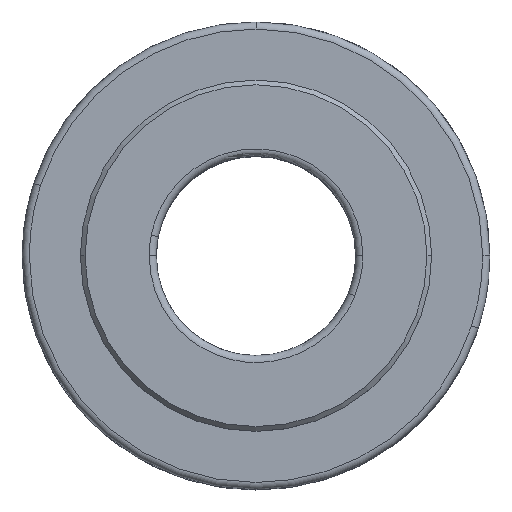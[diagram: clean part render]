
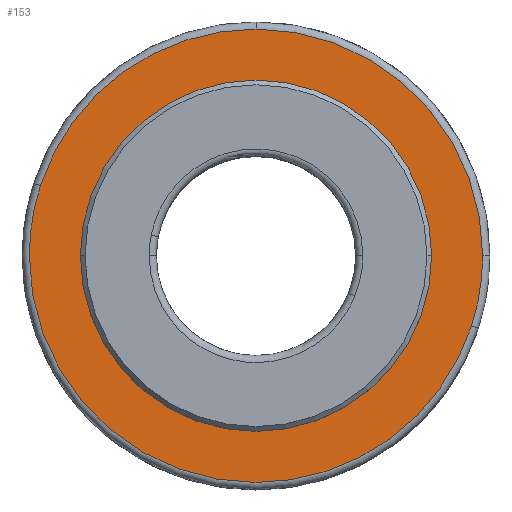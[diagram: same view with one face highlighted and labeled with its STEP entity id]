
A CAD part, top view. The second image highlights one B-rep face of the part: STEP entity #153.
In plain terms, the highlighted planar face has unit normal (0, 0, 1).
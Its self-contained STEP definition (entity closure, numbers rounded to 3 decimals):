
#48=AXIS2_PLACEMENT_3D('Circle Axis2P3D',#46,#47,$) ;
#79=AXIS2_PLACEMENT_3D('Circle Axis2P3D',#77,#78,$) ;
#97=AXIS2_PLACEMENT_3D('Plane Axis2P3D',#94,#95,#96) ;
#101=AXIS2_PLACEMENT_3D('Circle Axis2P3D',#99,#100,$) ;
#110=AXIS2_PLACEMENT_3D('Circle Axis2P3D',#108,#109,$) ;
#117=AXIS2_PLACEMENT_3D('Circle Axis2P3D',#115,#116,$) ;
#124=AXIS2_PLACEMENT_3D('Circle Axis2P3D',#122,#123,$) ;
#131=AXIS2_PLACEMENT_3D('Circle Axis2P3D',#129,#130,$) ;
#138=AXIS2_PLACEMENT_3D('Circle Axis2P3D',#136,#137,$) ;
#43=CARTESIAN_POINT('Vertex',(-7.4,0.,4.85)) ;
#46=CARTESIAN_POINT('Axis2P3D Location',(0.,0.,4.85)) ;
#50=CARTESIAN_POINT('Vertex',(7.4,0.,4.85)) ;
#77=CARTESIAN_POINT('Axis2P3D Location',(0.,0.,4.85)) ;
#94=CARTESIAN_POINT('Axis2P3D Location',(0.,0.,4.85)) ;
#99=CARTESIAN_POINT('Axis2P3D Location',(0.,0.,4.85)) ;
#103=CARTESIAN_POINT('Vertex',(0.,-9.55,4.85)) ;
#105=CARTESIAN_POINT('Vertex',(9.083,-2.951,4.85)) ;
#108=CARTESIAN_POINT('Axis2P3D Location',(0.,0.,4.85)) ;
#112=CARTESIAN_POINT('Vertex',(9.55,0.,4.85)) ;
#115=CARTESIAN_POINT('Axis2P3D Location',(0.,0.,4.85)) ;
#119=CARTESIAN_POINT('Vertex',(0.,9.55,4.85)) ;
#122=CARTESIAN_POINT('Axis2P3D Location',(0.,0.,4.85)) ;
#126=CARTESIAN_POINT('Vertex',(-9.083,2.951,4.85)) ;
#129=CARTESIAN_POINT('Axis2P3D Location',(0.,0.,4.85)) ;
#133=CARTESIAN_POINT('Vertex',(-9.55,0.,4.85)) ;
#136=CARTESIAN_POINT('Axis2P3D Location',(0.,0.,4.85)) ;
#47=DIRECTION('Axis2P3D Direction',(0.,0.,1.)) ;
#78=DIRECTION('Axis2P3D Direction',(0.,0.,1.)) ;
#95=DIRECTION('Axis2P3D Direction',(0.,0.,1.)) ;
#96=DIRECTION('Axis2P3D XDirection',(1.,0.,0.)) ;
#100=DIRECTION('Axis2P3D Direction',(0.,0.,1.)) ;
#109=DIRECTION('Axis2P3D Direction',(0.,0.,1.)) ;
#116=DIRECTION('Axis2P3D Direction',(0.,0.,1.)) ;
#123=DIRECTION('Axis2P3D Direction',(0.,0.,1.)) ;
#130=DIRECTION('Axis2P3D Direction',(0.,0.,1.)) ;
#137=DIRECTION('Axis2P3D Direction',(0.,0.,1.)) ;
#142=ORIENTED_EDGE('',*,*,#107,.T.) ;
#143=ORIENTED_EDGE('',*,*,#114,.T.) ;
#144=ORIENTED_EDGE('',*,*,#121,.T.) ;
#145=ORIENTED_EDGE('',*,*,#128,.T.) ;
#146=ORIENTED_EDGE('',*,*,#135,.T.) ;
#147=ORIENTED_EDGE('',*,*,#140,.T.) ;
#150=ORIENTED_EDGE('',*,*,#81,.T.) ;
#151=ORIENTED_EDGE('',*,*,#52,.F.) ;
#152=FACE_BOUND('',#149,.T.) ;
#153=ADVANCED_FACE('\X2\96F64EF651E04F554F53\X0\',(#148,#152),#98,.T.) ;
#49=CIRCLE('generated circle',#48,7.4) ;
#80=CIRCLE('generated circle',#79,7.4) ;
#102=CIRCLE('generated circle',#101,9.55) ;
#111=CIRCLE('generated circle',#110,9.55) ;
#118=CIRCLE('generated circle',#117,9.55) ;
#125=CIRCLE('generated circle',#124,9.55) ;
#132=CIRCLE('generated circle',#131,9.55) ;
#139=CIRCLE('generated circle',#138,9.55) ;
#52=EDGE_CURVE('',#44,#51,#49,.T.) ;
#81=EDGE_CURVE('',#44,#51,#80,.F.) ;
#107=EDGE_CURVE('',#104,#106,#102,.T.) ;
#114=EDGE_CURVE('',#106,#113,#111,.T.) ;
#121=EDGE_CURVE('',#113,#120,#118,.T.) ;
#128=EDGE_CURVE('',#120,#127,#125,.T.) ;
#135=EDGE_CURVE('',#127,#134,#132,.T.) ;
#140=EDGE_CURVE('',#134,#104,#139,.T.) ;
#141=EDGE_LOOP('',(#142,#143,#144,#145,#146,#147)) ;
#149=EDGE_LOOP('',(#150,#151)) ;
#148=FACE_OUTER_BOUND('',#141,.T.) ;
#98=PLANE('Plane',#97) ;
#44=VERTEX_POINT('',#43) ;
#51=VERTEX_POINT('',#50) ;
#104=VERTEX_POINT('',#103) ;
#106=VERTEX_POINT('',#105) ;
#113=VERTEX_POINT('',#112) ;
#120=VERTEX_POINT('',#119) ;
#127=VERTEX_POINT('',#126) ;
#134=VERTEX_POINT('',#133) ;
